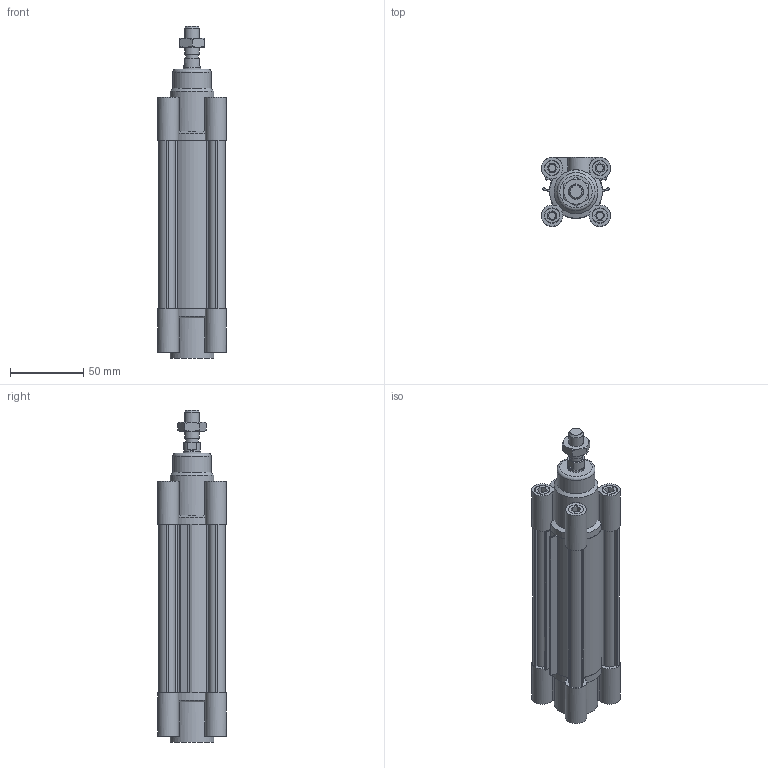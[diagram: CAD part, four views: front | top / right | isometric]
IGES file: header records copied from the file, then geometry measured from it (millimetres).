
Global section: file name: No Iges File Name specified; native system: Autodesk Inventor 2012; preprocessor: AutoDesk Inventor Iges Exporter R2012; author: pilonfr1; date: 20120128.095010; units: millimetre
Bounding box: 47 x 47 x 226.5 mm (x, y, z)
Volume: 205826.6 mm3; surface area: 95722.8 mm2
Topology: 5 solids, 5 shells, 316 faces, 788 edges, 522 vertices
Faces by surface type: plane 200, cylinder 54, revolution 39, cone 22, torus 1
Full cylindrical faces by diameter (mm): 8.8 x1, 10 x9, 11.5 x1, 12 x1, 26 x1, 30 x2, 32 x3
